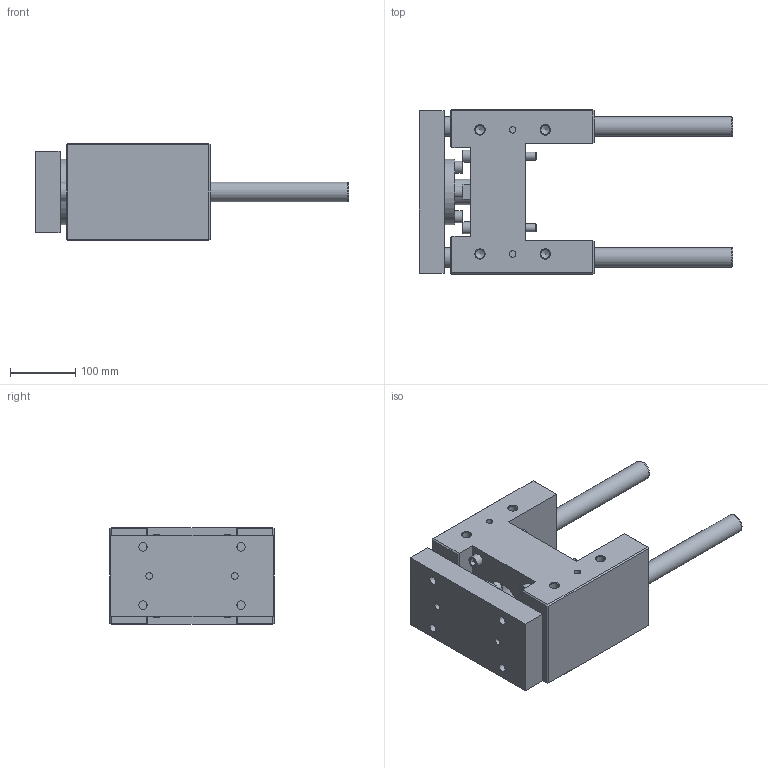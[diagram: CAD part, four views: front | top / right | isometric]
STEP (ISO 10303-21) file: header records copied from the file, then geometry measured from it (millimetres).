
FILE_DESCRIPTION( ( 'STEP AP214' ), '1' );
FILE_NAME( 'U:/Etudes/Top Solid/BIBLIO 3D AVM/TOP/PNEUMATIQUE/GUIDAGES/Type 32 (en H)/R_Renforcée/320R3_30.step', '2005-05-27T08:39:51', ( ' ' ), ( ' ' ), 'XStep 1.0', ' ', ' ' );
FILE_SCHEMA( ( 'automotive_design' ) );
Length unit declared in the file: metre
Products named in the file (2): 1; 2
Bounding box: 480 x 252 x 148 mm (x, y, z)
Volume: 6572040.1 mm3; surface area: 547291.5 mm2
Topology: 2 solids, 7 shells, 238 faces, 524 edges, 339 vertices
Faces by surface type: plane 149, cylinder 68, cone 21
Full cylindrical faces by diameter (mm): 10 x4, 10.106 x4, 12 x16, 13 x12, 13.835 x8, 18 x8, 20 x4, 24.835 x1, 30 x4, 39 x1, 42 x1, 57 x1, 60 x2, 65 x1, 100 x1
Entity records: 7905 total; most frequent: CARTESIAN_POINT 1198, DIRECTION 996, ORIENTED_EDGE 784, EDGE_CURVE 392, EDGE_LOOP 390, AXIS2_PLACEMENT_3D 372, FACE_OUTER_BOUND 306, VERTEX_POINT 302
